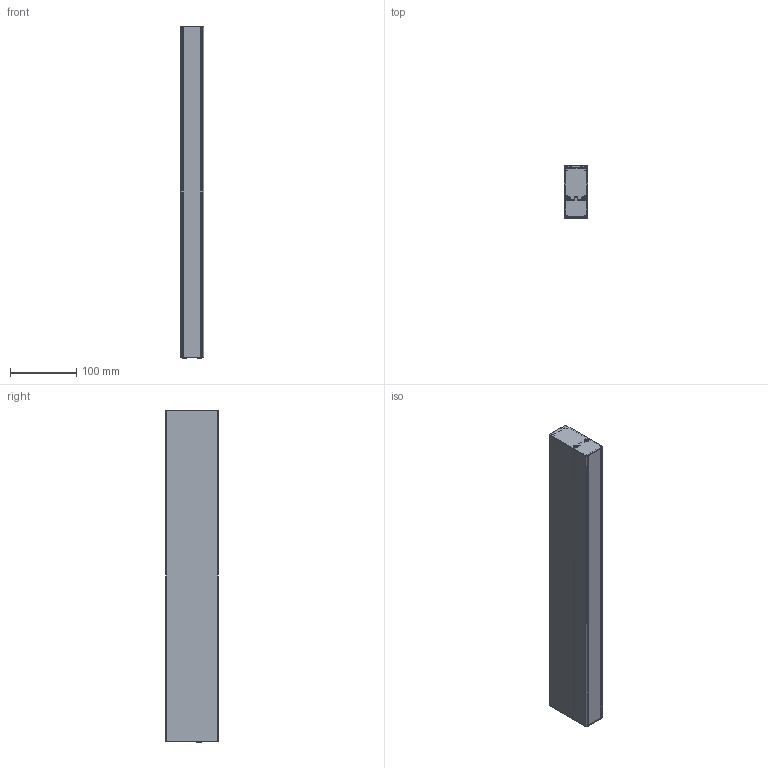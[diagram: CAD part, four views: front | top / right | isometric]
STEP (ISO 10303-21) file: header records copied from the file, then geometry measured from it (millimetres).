
FILE_DESCRIPTION(('STEP AP203'), '1');
FILE_NAME('ﾌ瑣韭 ﾘⅳ', '', ('UNSPECIFIED'), ('UNSPECIFIED'), 'ASCON STEP Converter 1.6', 'ASCON Math Kernel', '');
FILE_SCHEMA(('CONFIG_CONTROL_DESIGN'));
Length unit declared in the file: millimetre
Assembly tree (4 placements, depth 2):
  (unnamed)
    (unnamed)  x4
Bounding box: 35 x 80 x 502.3 mm (x, y, z)
Volume: 206808.7 mm3; surface area: 326665.5 mm2
Topology: 9 solids, 9 shells, 315 faces, 859 edges, 576 vertices
Faces by surface type: plane 158, cylinder 119, bspline 16, cone 12, torus 10
Full cylindrical faces by diameter (mm): 2.9 x4, 6.3 x4, 8 x1, 10 x2, 14 x2
Entity records: 9813 total; most frequent: CARTESIAN_POINT 1503, DIRECTION 1388, ORIENTED_EDGE 1310, EDGE_CURVE 655, AXIS2_PLACEMENT_3D 492, VERTEX_POINT 445, LINE 404, VECTOR 404
